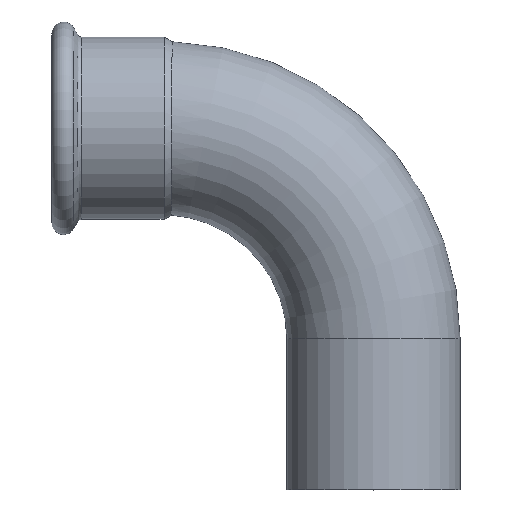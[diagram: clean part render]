
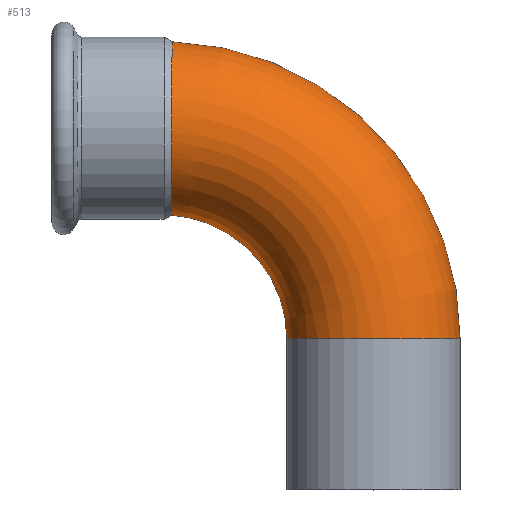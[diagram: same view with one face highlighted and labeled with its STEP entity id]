
A CAD part, top view. The second image highlights one B-rep face of the part: STEP entity #513.
In plain terms, the highlighted toroidal (fillet/blend) face has major radius 108 mm and minor radius 44.45 mm.
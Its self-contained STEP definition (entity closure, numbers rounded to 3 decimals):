
#448=CARTESIAN_POINT('',(152.45,-108.,0.));
#449=VERTEX_POINT('',#448);
#450=CARTESIAN_POINT('',(108.0,-108.,0.0));
#451=DIRECTION('',(0.0,1.0,0.0));
#452=DIRECTION('',(-1.0,0.0,0.0));
#453=AXIS2_PLACEMENT_3D('',#450,#451,#452);
#454=CIRCLE('',#453,44.45);
#455=EDGE_CURVE('',#449,#449,#454,.T.);
#460=CARTESIAN_POINT('',(0.0,-108.0,0.0));
#461=DIRECTION('',(0.0,0.0,-1.0));
#462=DIRECTION('',(-1.0,0.0,0.0));
#463=AXIS2_PLACEMENT_3D('',#460,#461,#462);
#464=TOROIDAL_SURFACE('',#463,108.0,44.45);
#465=ORIENTED_EDGE('',*,*,#455,.T.);
#466=EDGE_LOOP('',(#465));
#467=FACE_OUTER_BOUND('',#466,.T.);
#468=CARTESIAN_POINT('',(4.642,44.379,0.));
#469=VERTEX_POINT('',#468);
#470=CARTESIAN_POINT('',(4.642,44.379,0.));
#471=CARTESIAN_POINT('',(4.642,44.379,-5.767));
#472=CARTESIAN_POINT('',(4.64,43.257,-11.479));
#473=CARTESIAN_POINT('',(4.63,38.921,-22.083));
#474=CARTESIAN_POINT('',(4.624,35.776,-26.887));
#475=CARTESIAN_POINT('',(4.605,27.905,-34.988));
#476=CARTESIAN_POINT('',(4.593,23.273,-38.234));
#477=CARTESIAN_POINT('',(4.564,13.12,-42.801));
#478=CARTESIAN_POINT('',(4.547,7.699,-44.11));
#479=CARTESIAN_POINT('',(4.508,-3.318,-44.673));
#480=CARTESIAN_POINT('',(4.486,-8.82,-43.932));
#481=CARTESIAN_POINT('',(4.437,-19.381,-40.447));
#482=CARTESIAN_POINT('',(4.411,-24.334,-37.693));
#483=CARTESIAN_POINT('',(4.358,-33.157,-30.32));
#484=CARTESIAN_POINT('',(4.331,-36.878,-25.692));
#485=CARTESIAN_POINT('',(4.294,-41.838,-16.148));
#486=CARTESIAN_POINT('',(4.281,-43.359,-11.48));
#487=CARTESIAN_POINT('',(4.271,-44.542,-3.687));
#488=CARTESIAN_POINT('',(4.27,-44.69,-0.676));
#489=CARTESIAN_POINT('',(4.273,-44.348,5.839));
#490=CARTESIAN_POINT('',(4.278,-43.747,9.316));
#491=CARTESIAN_POINT('',(4.3,-41.054,18.344));
#492=CARTESIAN_POINT('',(4.322,-38.255,23.608));
#493=CARTESIAN_POINT('',(4.372,-30.914,32.556));
#494=CARTESIAN_POINT('',(4.399,-26.511,36.212));
#495=CARTESIAN_POINT('',(4.452,-16.381,41.78));
#496=CARTESIAN_POINT('',(4.478,-10.708,43.566));
#497=CARTESIAN_POINT('',(4.524,0.995,44.824));
#498=CARTESIAN_POINT('',(4.545,6.909,44.287));
#499=CARTESIAN_POINT('',(4.579,18.189,40.945));
#500=CARTESIAN_POINT('',(4.593,23.443,38.172));
#501=CARTESIAN_POINT('',(4.616,32.567,30.739));
#502=CARTESIAN_POINT('',(4.625,36.347,26.153));
#503=CARTESIAN_POINT('',(4.635,40.831,17.772));
#504=CARTESIAN_POINT('',(4.637,42.142,14.385));
#505=CARTESIAN_POINT('',(4.641,43.925,7.32));
#506=CARTESIAN_POINT('',(4.642,44.379,3.667));
#507=CARTESIAN_POINT('',(4.642,44.379,0.));
#508=B_SPLINE_CURVE_WITH_KNOTS('',3,(#470,#471,#472,#473,#474,#475,#476,#477,#478,#479,#480,#481,#482,#483,#484,#485,#486,#487,#488,#489,#490,#491,#492,#493,#494,#495,#496,#497,#498,#499,#500,#501,#502,#503,#504,#505,#506,#507),.UNSPECIFIED.,.T.,.U.,(4,2,2,2,2,2,2,2,2,2,2,2,2,2,2,2,2,2,4),(0.0,1.73,3.437,5.119,6.777,8.428,10.113,11.877,13.34,14.242,15.297,17.068,18.77,20.536,22.301,24.066,25.831,26.917,28.017),.UNSPECIFIED.);
#509=EDGE_CURVE('',#469,#469,#508,.T.);
#510=ORIENTED_EDGE('',*,*,#509,.F.);
#511=EDGE_LOOP('',(#510));
#512=FACE_BOUND('',#511,.T.);
#513=ADVANCED_FACE('',(#467,#512),#464,.T.);
